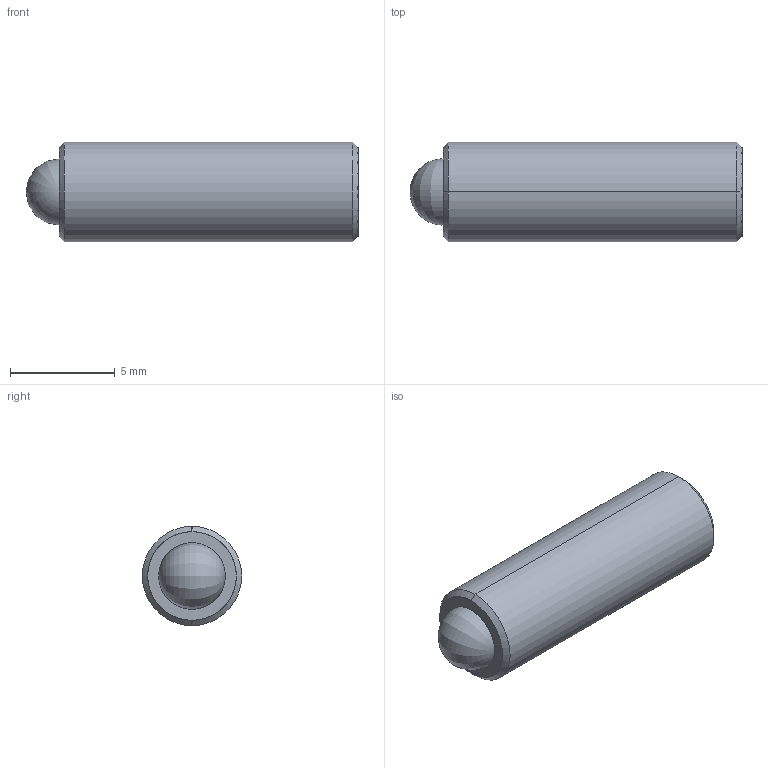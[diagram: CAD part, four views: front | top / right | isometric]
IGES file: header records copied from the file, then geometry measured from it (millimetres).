
Start section: SolidWorks IGES file using analytic representation for surfaces
Global section: file name: C:\Users\workpc\Desktop\KMA Solidworks\TS187-100-625.IGS; native system: SolidWorks 2013; preprocessor: SolidWorks 2013; author: workpc; date: 130211.105711; units: inch
Bounding box: 15.87 x 4.75 x 4.75 mm (x, y, z)
Surface area: 307.2 mm2 (no closed solid volume)
Topology: 0 solids, 0 shells, 20 faces, 204 edges, 200 vertices
Faces by surface type: revolution 10, bspline 10
